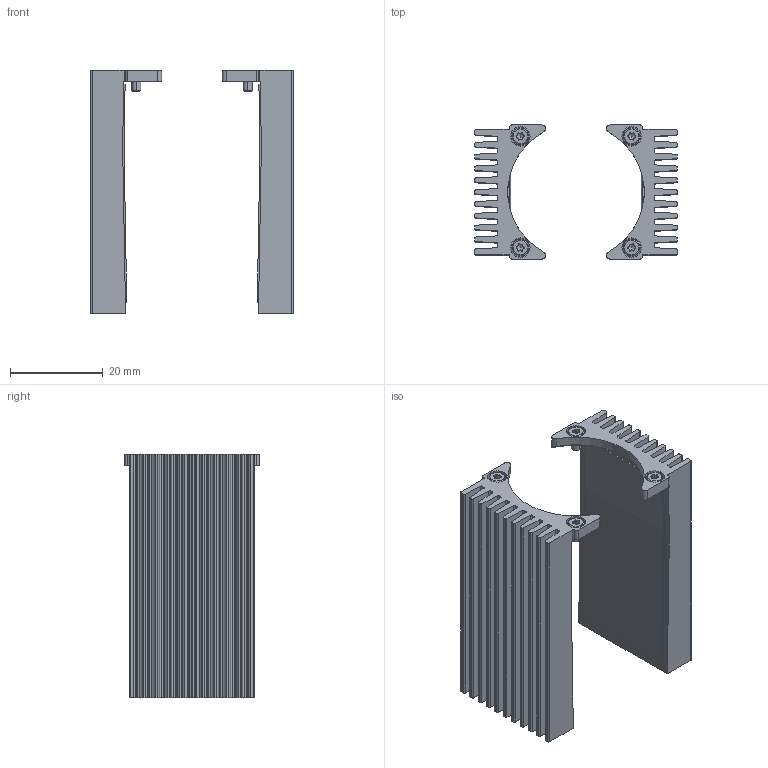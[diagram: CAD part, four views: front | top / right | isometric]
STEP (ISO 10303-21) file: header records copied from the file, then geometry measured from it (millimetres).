
FILE_DESCRIPTION (( 'STEP AP214' ), '1' );
FILE_NAME ('16185 - Heat Sink Set for Alvium 2000 G5.STEP', '2022-03-11T10:11:43', ( '' ), ( '' ), 'SwSTEP 2.0', 'SolidWorks 2020', '' );
FILE_SCHEMA (( 'AUTOMOTIVE_DESIGN' ));
Length unit declared in the file: millimetre
Products named in the file (1): 16185 - Heat Sink Set for Alvium 2000 G5
Bounding box: 43.64 x 28.9 x 52.5 mm (x, y, z)
Volume: 14386.9 mm3; surface area: 22501.4 mm2
Topology: 8 solids, 8 shells, 360 faces, 976 edges, 636 vertices
Faces by surface type: cylinder 178, plane 138, cone 28, torus 16
Entity records: 15783 total; most frequent: CARTESIAN_POINT 2459, DIRECTION 1986, ORIENTED_EDGE 1936, EDGE_CURVE 968, AXIS2_PLACEMENT_3D 723, VERTEX_POINT 636, VECTOR 540, LINE 540
